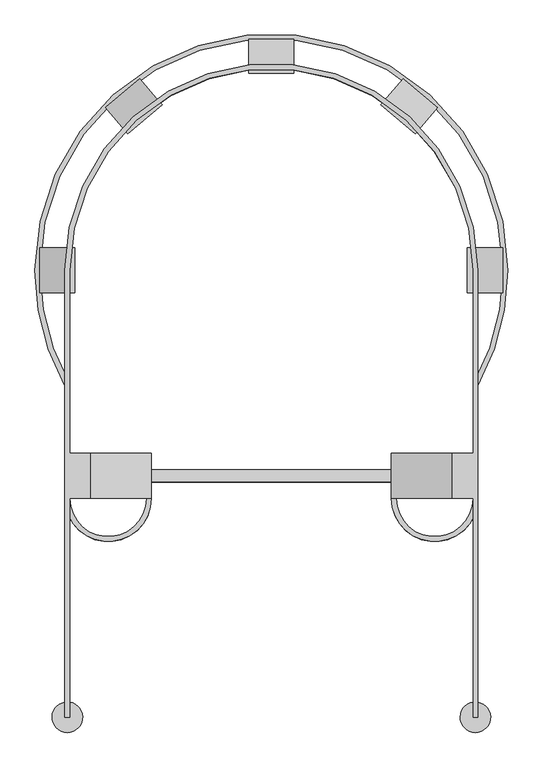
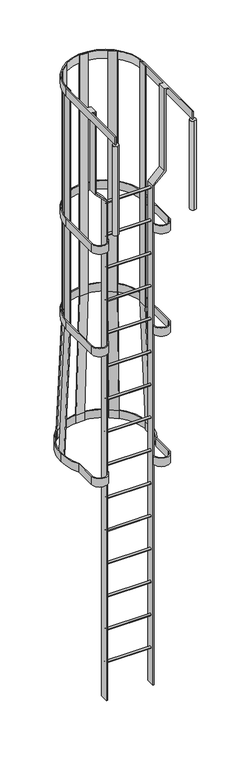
"""IFC4 building model written with IfcOpenShell, lengths in millimetres: proxy geometry, Лестница клетевой конструкции : Стандартная."""

from ifc_helpers import new_model, si_unit, point, frame, frame_2d, origin, place, context, project, spatial, polyline, circle_curve, trimmed, segment, composite_curve, outline, extrude, source, transform, mapped, element, save
from ifc_brep_helpers import plane_surface, cylinder_surface, revolved_surface, advanced_brep


def specialty_equipment_8408ae57(model_context):
    return source(origin(), model_context, "Body", "SolidModel", [
        extrude(outline(composite_curve([segment(trimmed(circle_curve(frame_2d((272.0, 365.2)), 72.0), [point((344.0, 365.2))], [point((200.0, 365.2))], False, "CARTESIAN"), True, "CONTINUOUS"), segment(polyline([(200.0, 365.2), (208.0, 365.2)]), True, "CONTINUOUS"), segment(trimmed(circle_curve(frame_2d((272.0, 365.2)), 64.0), [point((208.0, 365.2))], [point((336.0, 365.2))], True, "CARTESIAN"), True, "CONTINUOUS"), segment(polyline([(336.0, 365.2), (336.0, 745.2)]), True, "CONTINUOUS"), segment(trimmed(circle_curve(frame_2d((0.0, 745.2)), 336.0), [point((336.0, 745.2))], [point((-336.0, 745.2))], True, "CARTESIAN"), True, "CONTINUOUS"), segment(polyline([(-336.0, 745.2), (-336.0, 365.2)]), True, "CONTINUOUS"), segment(trimmed(circle_curve(frame_2d((-272.0, 365.2)), 64.0), [point((-336.0, 365.2))], [point((-208.0, 365.2))], True, "CARTESIAN"), True, "CONTINUOUS"), segment(polyline([(-208.0, 365.2), (-200.0, 365.2)]), True, "CONTINUOUS"), segment(trimmed(circle_curve(frame_2d((-272.0, 365.2)), 72.0), [point((-200.0, 365.2))], [point((-344.0, 365.2))], False, "CARTESIAN"), True, "CONTINUOUS"), segment(polyline([(-344.0, 365.2), (-344.0, 745.2)]), True, "CONTINUOUS"), segment(trimmed(circle_curve(frame_2d((0.0, 745.2)), 344.0), [point((-344.0, 745.2))], [point((344.0, 745.2))], False, "CARTESIAN"), True, "CONTINUOUS"), segment(polyline([(344.0, 745.2), (344.0, 365.2)]), True, "CONTINUOUS")], self_intersect=False)), frame((0.0, 0.0, -1335.0), z_axis=(0.0, 0.0, 1.0), x_axis=(1.0, 0.0, 0.0)), (0.0, 0.0, 1.0), 75.0),
        extrude(outline(composite_curve([segment(trimmed(circle_curve(frame_2d((402.7, -4270.0)), 10.0), [point((392.7, -4270.0))], [point((412.7, -4270.0))], False, "CARTESIAN"), True, "CONTINUOUS"), segment(trimmed(circle_curve(frame_2d((402.7, -4270.0)), 10.0), [point((412.7, -4270.0))], [point((392.7, -4270.0))], False, "CARTESIAN"), True, "CONTINUOUS")], self_intersect=False)), frame((-200.0, 0.0, 0.0), z_axis=(1.0, 0.0, 0.0), x_axis=(0.0, 1.0, 0.0)), (0.0, 0.0, 1.0), 400.0),
        extrude(outline(composite_curve([segment(trimmed(circle_curve(frame_2d((402.7, -3965.0)), 10.0), [point((392.7, -3965.0))], [point((412.7, -3965.0))], False, "CARTESIAN"), True, "CONTINUOUS"), segment(trimmed(circle_curve(frame_2d((402.7, -3965.0)), 10.0), [point((412.7, -3965.0))], [point((392.7, -3965.0))], False, "CARTESIAN"), True, "CONTINUOUS")], self_intersect=False)), frame((-200.0, 0.0, 0.0), z_axis=(1.0, 0.0, 0.0), x_axis=(0.0, 1.0, 0.0)), (0.0, 0.0, 1.0), 400.0),
        extrude(outline(composite_curve([segment(trimmed(circle_curve(frame_2d((402.7, -3660.0)), 10.0), [point((392.7, -3660.0))], [point((412.7, -3660.0))], False, "CARTESIAN"), True, "CONTINUOUS"), segment(trimmed(circle_curve(frame_2d((402.7, -3660.0)), 10.0), [point((412.7, -3660.0))], [point((392.7, -3660.0))], False, "CARTESIAN"), True, "CONTINUOUS")], self_intersect=False)), frame((-200.0, 0.0, 0.0), z_axis=(1.0, 0.0, 0.0), x_axis=(0.0, 1.0, 0.0)), (0.0, 0.0, 1.0), 400.0),
        extrude(outline(composite_curve([segment(trimmed(circle_curve(frame_2d((402.7, -3355.0)), 10.0), [point((392.7, -3355.0))], [point((412.7, -3355.0))], False, "CARTESIAN"), True, "CONTINUOUS"), segment(trimmed(circle_curve(frame_2d((402.7, -3355.0)), 10.0), [point((412.7, -3355.0))], [point((392.7, -3355.0))], False, "CARTESIAN"), True, "CONTINUOUS")], self_intersect=False)), frame((-200.0, 0.0, 0.0), z_axis=(1.0, 0.0, 0.0), x_axis=(0.0, 1.0, 0.0)), (0.0, 0.0, 1.0), 400.0),
        extrude(outline(composite_curve([segment(trimmed(circle_curve(frame_2d((402.7, -3050.0)), 10.0), [point((392.7, -3050.0))], [point((412.7, -3050.0))], False, "CARTESIAN"), True, "CONTINUOUS"), segment(trimmed(circle_curve(frame_2d((402.7, -3050.0)), 10.0), [point((412.7, -3050.0))], [point((392.7, -3050.0))], False, "CARTESIAN"), True, "CONTINUOUS")], self_intersect=False)), frame((-200.0, 0.0, 0.0), z_axis=(1.0, 0.0, 0.0), x_axis=(0.0, 1.0, 0.0)), (0.0, 0.0, 1.0), 400.0),
        extrude(outline(composite_curve([segment(trimmed(circle_curve(frame_2d((402.7, -2745.0)), 10.0), [point((392.7, -2745.0))], [point((412.7, -2745.0))], False, "CARTESIAN"), True, "CONTINUOUS"), segment(trimmed(circle_curve(frame_2d((402.7, -2745.0)), 10.0), [point((412.7, -2745.0))], [point((392.7, -2745.0))], False, "CARTESIAN"), True, "CONTINUOUS")], self_intersect=False)), frame((-200.0, 0.0, 0.0), z_axis=(1.0, 0.0, 0.0), x_axis=(0.0, 1.0, 0.0)), (0.0, 0.0, 1.0), 400.0),
        extrude(outline(composite_curve([segment(trimmed(circle_curve(frame_2d((402.7, -2440.0)), 10.0), [point((392.7, -2440.0))], [point((412.7, -2440.0))], False, "CARTESIAN"), True, "CONTINUOUS"), segment(trimmed(circle_curve(frame_2d((402.7, -2440.0)), 10.0), [point((412.7, -2440.0))], [point((392.7, -2440.0))], False, "CARTESIAN"), True, "CONTINUOUS")], self_intersect=False)), frame((-200.0, 0.0, 0.0), z_axis=(1.0, 0.0, 0.0), x_axis=(0.0, 1.0, 0.0)), (0.0, 0.0, 1.0), 400.0),
        extrude(outline(composite_curve([segment(trimmed(circle_curve(frame_2d((272.0, 365.2)), 72.0), [point((344.0, 365.2))], [point((200.0, 365.2))], False, "CARTESIAN"), True, "CONTINUOUS"), segment(polyline([(200.0, 365.2), (208.0, 365.2)]), True, "CONTINUOUS"), segment(trimmed(circle_curve(frame_2d((272.0, 365.2)), 64.0), [point((208.0, 365.2))], [point((336.0, 365.2))], True, "CARTESIAN"), True, "CONTINUOUS"), segment(polyline([(336.0, 365.2), (336.0, 745.2)]), True, "CONTINUOUS"), segment(trimmed(circle_curve(frame_2d((0.0, 745.2)), 336.0), [point((336.0, 745.2))], [point((-336.0, 745.2))], True, "CARTESIAN"), True, "CONTINUOUS"), segment(polyline([(-336.0, 745.2), (-336.0, 365.2)]), True, "CONTINUOUS"), segment(trimmed(circle_curve(frame_2d((-272.0, 365.2)), 64.0), [point((-336.0, 365.2))], [point((-208.0, 365.2))], True, "CARTESIAN"), True, "CONTINUOUS"), segment(polyline([(-208.0, 365.2), (-200.0, 365.2)]), True, "CONTINUOUS"), segment(trimmed(circle_curve(frame_2d((-272.0, 365.2)), 72.0), [point((-200.0, 365.2))], [point((-344.0, 365.2))], False, "CARTESIAN"), True, "CONTINUOUS"), segment(polyline([(-344.0, 365.2), (-344.0, 745.2)]), True, "CONTINUOUS"), segment(trimmed(circle_curve(frame_2d((0.0, 745.2)), 344.0), [point((-344.0, 745.2))], [point((344.0, 745.2))], False, "CARTESIAN"), True, "CONTINUOUS"), segment(polyline([(344.0, 745.2), (344.0, 365.2)]), True, "CONTINUOUS")], self_intersect=False)), frame((0.0, 0.0, -385.0), z_axis=(0.0, 0.0, 1.0), x_axis=(1.0, 0.0, 0.0)), (0.0, 0.0, 1.0), 75.0),
        extrude(outline(composite_curve([segment(trimmed(circle_curve(frame_2d((402.7, -2135.0)), 10.0), [point((392.7, -2135.0))], [point((412.7, -2135.0))], False, "CARTESIAN"), True, "CONTINUOUS"), segment(trimmed(circle_curve(frame_2d((402.7, -2135.0)), 10.0), [point((412.7, -2135.0))], [point((392.7, -2135.0))], False, "CARTESIAN"), True, "CONTINUOUS")], self_intersect=False)), frame((-200.0, 0.0, 0.0), z_axis=(1.0, 0.0, 0.0), x_axis=(0.0, 1.0, 0.0)), (0.0, 0.0, 1.0), 400.0),
        extrude(outline(composite_curve([segment(trimmed(circle_curve(frame_2d((402.7, -1830.0)), 10.0), [point((392.7, -1830.0))], [point((412.7, -1830.0))], False, "CARTESIAN"), True, "CONTINUOUS"), segment(trimmed(circle_curve(frame_2d((402.7, -1830.0)), 10.0), [point((412.7, -1830.0))], [point((392.7, -1830.0))], False, "CARTESIAN"), True, "CONTINUOUS")], self_intersect=False)), frame((-200.0, 0.0, 0.0), z_axis=(1.0, 0.0, 0.0), x_axis=(0.0, 1.0, 0.0)), (0.0, 0.0, 1.0), 400.0),
        extrude(outline(composite_curve([segment(trimmed(circle_curve(frame_2d((402.7, -1525.0)), 10.0), [point((392.7, -1525.0))], [point((412.7, -1525.0))], False, "CARTESIAN"), True, "CONTINUOUS"), segment(trimmed(circle_curve(frame_2d((402.7, -1525.0)), 10.0), [point((412.7, -1525.0))], [point((392.7, -1525.0))], False, "CARTESIAN"), True, "CONTINUOUS")], self_intersect=False)), frame((-200.0, 0.0, 0.0), z_axis=(1.0, 0.0, 0.0), x_axis=(0.0, 1.0, 0.0)), (0.0, 0.0, 1.0), 400.0),
        extrude(outline(composite_curve([segment(trimmed(circle_curve(frame_2d((402.7, -1220.0)), 10.0), [point((392.7, -1220.0))], [point((412.7, -1220.0))], False, "CARTESIAN"), True, "CONTINUOUS"), segment(trimmed(circle_curve(frame_2d((402.7, -1220.0)), 10.0), [point((412.7, -1220.0))], [point((392.7, -1220.0))], False, "CARTESIAN"), True, "CONTINUOUS")], self_intersect=False)), frame((-200.0, 0.0, 0.0), z_axis=(1.0, 0.0, 0.0), x_axis=(0.0, 1.0, 0.0)), (0.0, 0.0, 1.0), 400.0),
        extrude(outline(composite_curve([segment(trimmed(circle_curve(frame_2d((402.7, -915.0)), 10.0), [point((392.7, -915.0))], [point((412.7, -915.0))], False, "CARTESIAN"), True, "CONTINUOUS"), segment(trimmed(circle_curve(frame_2d((402.7, -915.0)), 10.0), [point((412.7, -915.0))], [point((392.7, -915.0))], False, "CARTESIAN"), True, "CONTINUOUS")], self_intersect=False)), frame((-200.0, 0.0, 0.0), z_axis=(1.0, 0.0, 0.0), x_axis=(0.0, 1.0, 0.0)), (0.0, 0.0, 1.0), 400.0),
        extrude(outline(composite_curve([segment(trimmed(circle_curve(frame_2d((402.7, -610.0)), 10.0), [point((392.7, -610.0))], [point((412.7, -610.0))], False, "CARTESIAN"), True, "CONTINUOUS"), segment(trimmed(circle_curve(frame_2d((402.7, -610.0)), 10.0), [point((412.7, -610.0))], [point((392.7, -610.0))], False, "CARTESIAN"), True, "CONTINUOUS")], self_intersect=False)), frame((-200.0, 0.0, 0.0), z_axis=(1.0, 0.0, 0.0), x_axis=(0.0, 1.0, 0.0)), (0.0, 0.0, 1.0), 400.0),
        extrude(outline(composite_curve([segment(trimmed(circle_curve(frame_2d((402.7, -305.0)), 10.0), [point((392.7, -305.0))], [point((412.7, -305.0))], False, "CARTESIAN"), True, "CONTINUOUS"), segment(trimmed(circle_curve(frame_2d((402.7, -305.0)), 10.0), [point((412.7, -305.0))], [point((392.7, -305.0))], False, "CARTESIAN"), True, "CONTINUOUS")], self_intersect=False)), frame((-200.0, 0.0, 0.0), z_axis=(1.0, 0.0, 0.0), x_axis=(0.0, 1.0, 0.0)), (0.0, 0.0, 1.0), 400.0),
        extrude(outline(composite_curve([segment(trimmed(circle_curve(frame_2d((402.7, 0.0)), 10.0), [point((392.7, 0.0))], [point((412.7, 0.0))], False, "CARTESIAN"), True, "CONTINUOUS"), segment(trimmed(circle_curve(frame_2d((402.7, 0.0)), 10.0), [point((412.7, 0.0))], [point((392.7, 0.0))], False, "CARTESIAN"), True, "CONTINUOUS")], self_intersect=False)), frame((-200.0, 0.0, 0.0), z_axis=(1.0, 0.0, 0.0), x_axis=(0.0, 1.0, 0.0)), (0.0, 0.0, 1.0), 400.0),
        advanced_brep(
        [(-336.03125, 0.0, 900.0), (-344.03125, 0.0, 900.0), (-344.03125, 0.0, 825.0), (-336.03125, 0.0, 825.0), (-336.03125, 365.2, 900.0), (-301.6, 365.2, 900.0), (-301.6, 440.2, 900.0), (-336.03125, 440.2, 900.0), (-336.03125, 745.2, 900.0), (336.03125, 745.2, 900.0), (336.03125, 440.2, 900.0), (301.6, 440.2, 900.0), (301.6, 365.2, 900.0), (336.03125, 365.2, 900.0), (336.03125, 0.0, 900.0), (344.03125, 0.0, 900.0), (344.03125, 745.2, 900.0), (-344.03125, 745.2, 900.0), (-344.03125, 745.2, 825.0), (-344.03125, 25.0780586, 825.0), (344.03125, 745.2, 825.0), (344.03125, 25.0780586, 825.0), (340.0, 25.4, 825.0), (336.03125, 25.0880255, 825.0), (336.03125, 745.2, 825.0), (-336.03125, 745.2, 825.0), (-336.03125, 25.0880255, 825.0), (-340.0, 25.4, 825.0), (-336.03125, 440.2, 890.0), (-336.03125, 365.2, 890.0), (336.03125, 0.0, 825.0), (344.03125, 0.0, 825.0), (336.03125, 365.2, 890.0), (336.03125, 440.2, 890.0), (301.6, 365.2, 137.4921356), (200.0, 365.2, 35.8921356), (200.0, 365.2, -4600.0), (210.0, 365.2, -4600.0), (210.0, 365.2, 31.75), (311.6, 365.2, 133.35), (311.6, 365.2, 890.0), (311.6, 440.2, 890.0), (311.6, 440.2, 133.35), (210.0, 440.2, 31.75), (210.0, 440.2, -4600.0), (200.0, 440.2, -4600.0), (200.0, 440.2, 35.8921356), (301.6, 440.2, 137.4921356), (-311.6, 365.2, 890.0), (-311.6, 365.2, 133.35), (-210.0, 365.2, 31.75), (-210.0, 365.2, -4600.0), (-200.0, 365.2, -4600.0), (-200.0, 365.2, 35.8921356), (-301.6, 365.2, 137.4921356), (-301.6, 440.2, 137.4921356), (-200.0, 440.2, 35.8921356), (-200.0, 440.2, -4600.0), (-210.0, 440.2, -4600.0), (-210.0, 440.2, 31.75), (-311.6, 440.2, 133.35), (-311.6, 440.2, 890.0), (-340.0, 25.4, 0.0), (-340.0, -25.4, 0.0), (-340.0, -25.4, 825.0), (340.0, 25.4, 0.0), (340.0, -25.4, 0.0), (340.0, -25.4, 825.0)],
        [
            (0, 1),
            (1, 2),
            (2, 3),
            (3, 0),
            (0, 4),
            (4, 5),
            (5, 6),
            (6, 7),
            (7, 8),
            (8, 9, circle_curve(frame((0.0, 745.2, 900.0), z_axis=(0.0, 0.0, -1.0), x_axis=(-1.0, 0.0, 0.0)), 336.03125)),
            (9, 10),
            (10, 11),
            (11, 12),
            (12, 13),
            (13, 14),
            (14, 15),
            (15, 16),
            (16, 17, circle_curve(frame((0.0, 745.2, 900.0), z_axis=(0.0, 0.0, 1.0), x_axis=(-1.0, 0.0, 0.0)), 344.03125)),
            (17, 1),
            (17, 18),
            (18, 19),
            (19, 2),
            (18, 20, circle_curve(frame((0.0, 745.2, 825.0), z_axis=(0.0, 0.0, -1.0), x_axis=(-1.0, 0.0, 0.0)), 344.03125)),
            (20, 21),
            (21, 22, circle_curve(frame((340.0, 0.0, 825.0), z_axis=(0.0, 0.0, 1.0), x_axis=(0.0, -1.0, 0.0)), 25.4)),
            (22, 23, circle_curve(frame((340.0, 0.0, 825.0), z_axis=(0.0, 0.0, 1.0), x_axis=(0.0, -1.0, 0.0)), 25.4)),
            (23, 24),
            (24, 25, circle_curve(frame((0.0, 745.2, 825.0), z_axis=(0.0, 0.0, 1.0), x_axis=(-1.0, 0.0, 0.0)), 336.03125)),
            (25, 26),
            (26, 27, circle_curve(frame((-340.0, 0.0, 825.0), z_axis=(0.0, 0.0, 1.0), x_axis=(0.0, -1.0, 0.0)), 25.4)),
            (27, 19, circle_curve(frame((-340.0, 0.0, 825.0), z_axis=(0.0, 0.0, 1.0), x_axis=(0.0, -1.0, 0.0)), 25.4)),
            (3, 26),
            (25, 8),
            (7, 28),
            (28, 29),
            (29, 4),
            (16, 20),
            (24, 9),
            (14, 30),
            (30, 31),
            (31, 15),
            (31, 21),
            (23, 30),
            (13, 32),
            (32, 33),
            (33, 10),
            (12, 34),
            (34, 35),
            (35, 36),
            (36, 37),
            (37, 38),
            (38, 39),
            (39, 40),
            (40, 32),
            (41, 42),
            (42, 43),
            (43, 44),
            (44, 45),
            (45, 46),
            (46, 47),
            (47, 11),
            (33, 41),
            (47, 34),
            (46, 35),
            (45, 36),
            (44, 37),
            (43, 38),
            (42, 39),
            (41, 40),
            (48, 49),
            (49, 50),
            (50, 51),
            (51, 52),
            (52, 53),
            (53, 54),
            (54, 5),
            (29, 48),
            (6, 55),
            (55, 56),
            (56, 57),
            (57, 58),
            (58, 59),
            (59, 60),
            (60, 61),
            (61, 28),
            (48, 61),
            (60, 49),
            (59, 50),
            (58, 51),
            (57, 52),
            (56, 53),
            (55, 54),
            (62, 63, circle_curve(frame((-340.0, 0.0, 0.0), z_axis=(0.0, 0.0, -1.0), x_axis=(0.0, -1.0, 0.0)), 25.4)),
            (63, 62, circle_curve(frame((-340.0, 0.0, 0.0), z_axis=(0.0, 0.0, -1.0), x_axis=(0.0, -1.0, 0.0)), 25.4)),
            (19, 64, circle_curve(frame((-340.0, 0.0, 825.0), z_axis=(0.0, 0.0, 1.0), x_axis=(0.0, -1.0, 0.0)), 25.4)),
            (64, 26, circle_curve(frame((-340.0, 0.0, 825.0), z_axis=(0.0, 0.0, 1.0), x_axis=(0.0, -1.0, 0.0)), 25.4)),
            (62, 27),
            (64, 63),
            (65, 66, circle_curve(frame((340.0, 0.0, 0.0), z_axis=(0.0, 0.0, -1.0), x_axis=(0.0, -1.0, 0.0)), 25.4)),
            (66, 65, circle_curve(frame((340.0, 0.0, 0.0), z_axis=(0.0, 0.0, -1.0), x_axis=(0.0, -1.0, 0.0)), 25.4)),
            (67, 21, circle_curve(frame((340.0, 0.0, 825.0), z_axis=(0.0, 0.0, 1.0), x_axis=(0.0, -1.0, 0.0)), 25.4)),
            (23, 67, circle_curve(frame((340.0, 0.0, 825.0), z_axis=(0.0, 0.0, 1.0), x_axis=(0.0, -1.0, 0.0)), 25.4)),
            (65, 22),
            (67, 66),
        ],
        [
            plane_surface(frame((-340.0, 0.0, 0.0), z_axis=(0.0, -1.0, 0.0), x_axis=(0.0, 0.0, 1.0))),
            plane_surface(frame((-336.03125, 0.0, 900.0), z_axis=(0.0, 0.0, 1.0), x_axis=(0.0, 1.0, 0.0))),
            plane_surface(frame((-344.03125, 0.0, 900.0), z_axis=(-1.0, 0.0, 0.0), x_axis=(0.0, 1.0, 0.0))),
            plane_surface(frame((-344.03125, 0.0, 825.0), z_axis=(0.0, 0.0, -1.0), x_axis=(0.0, 1.0, 0.0))),
            plane_surface(frame((-336.03125, 0.0, 825.0), z_axis=(1.0, 0.0, 0.0), x_axis=(0.0, 1.0, 0.0))),
            cylinder_surface(frame((0.0, 745.2, 0.0), z_axis=(0.0, 0.0, -1.0), x_axis=(-1.0, 0.0, 0.0)), 344.03125),
            revolved_surface(polyline([(-336.03125, 745.2, 825.0), (-336.03125, 745.2, 900.0)]), (0.0, 745.2, 0.0), (0.0, 0.0, -1.0)),
            plane_surface(frame((340.0, 0.0, 0.0), z_axis=(0.0, -1.0, 0.0), x_axis=(0.0, 0.0, 1.0))),
            plane_surface(frame((344.03125, 745.2, 900.0), z_axis=(1.0, 0.0, 0.0), x_axis=(0.0, -1.0, 0.0))),
            plane_surface(frame((336.03125, 745.2, 825.0), z_axis=(-1.0, 0.0, 0.0), x_axis=(0.0, -1.0, 0.0))),
            plane_surface(frame((270.9170109, 365.2, 0.0), z_axis=(0.0, -1.0, 0.0), x_axis=(0.0, 0.0, 1.0))),
            plane_surface(frame((270.9170109, 440.2, 0.0), z_axis=(0.0, 1.0, 0.0), x_axis=(0.0, 0.0, 1.0))),
            plane_surface(frame((301.6, 365.2, 900.0), z_axis=(-1.0, 0.0, 0.0), x_axis=(0.0, 1.0, 0.0))),
            plane_surface(frame((301.6, 365.2, 137.4921356), z_axis=(-0.7071067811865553, 0.0, 0.7071067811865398), x_axis=(0.0, 1.0, 0.0))),
            plane_surface(frame((200.0, 365.2, 35.8921356), z_axis=(-1.0, 0.0, 0.0), x_axis=(0.0, 1.0, 0.0))),
            plane_surface(frame((200.0, 365.2, -4600.0), z_axis=(0.0, 0.0, -1.0), x_axis=(0.0, 1.0, 0.0))),
            plane_surface(frame((210.0, 365.2, -4600.0), z_axis=(1.0, 0.0, 0.0), x_axis=(0.0, 1.0, 0.0))),
            plane_surface(frame((210.0, 365.2, 31.75), z_axis=(0.707106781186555, 0.0, -0.7071067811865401), x_axis=(0.0, 1.0, 0.0))),
            plane_surface(frame((311.6, 365.2, 133.35), z_axis=(1.0, 0.0, 0.0), x_axis=(0.0, 1.0, 0.0))),
            plane_surface(frame((311.6, 365.2, 890.0), z_axis=(0.0, 0.0, -1.0), x_axis=(0.0, 1.0, 0.0))),
            plane_surface(frame((-514.625, 365.2, 0.0), z_axis=(0.0, -1.0, 0.0), x_axis=(0.0, 0.0, 1.0))),
            plane_surface(frame((-514.625, 440.2, 0.0), z_axis=(0.0, 1.0, 0.0), x_axis=(0.0, 0.0, 1.0))),
            plane_surface(frame((-311.6, 365.2, 890.0), z_axis=(-1.0, 0.0, 0.0), x_axis=(0.0, 1.0, 0.0))),
            plane_surface(frame((-311.6, 365.2, 133.35), z_axis=(-0.7071067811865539, 0.0, -0.7071067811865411), x_axis=(0.0, 1.0, 0.0))),
            plane_surface(frame((-210.0, 365.2, 31.75), z_axis=(-1.0, 0.0, 0.0), x_axis=(0.0, 1.0, 0.0))),
            plane_surface(frame((-210.0, 365.2, -4600.0), z_axis=(0.0, 0.0, -1.0), x_axis=(0.0, 1.0, 0.0))),
            plane_surface(frame((-200.0, 365.2, -4600.0), z_axis=(1.0, 0.0, 0.0), x_axis=(0.0, 1.0, 0.0))),
            plane_surface(frame((-200.0, 365.2, 35.8921356), z_axis=(0.7071067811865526, 0.0, 0.7071067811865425), x_axis=(0.0, 1.0, 0.0))),
            plane_surface(frame((-301.6, 365.2, 137.4921356), z_axis=(1.0, 0.0, 0.0), x_axis=(0.0, 1.0, 0.0))),
            plane_surface(frame((-340.0, 365.2, 890.0), z_axis=(0.0, 0.0, -1.0), x_axis=(0.0, 1.0, 0.0))),
            plane_surface(frame((0.0, -25.4, 0.0), z_axis=(0.0, 0.0, -1.0), x_axis=(1.0, 0.0, 0.0))),
            plane_surface(frame((0.0, -25.4, 825.0), z_axis=(0.0, 0.0, 1.0), x_axis=(1.0, 0.0, 0.0))),
            cylinder_surface(frame((-340.0, 0.0, 0.0), z_axis=(0.0, 0.0, -1.0), x_axis=(0.0, -1.0, 0.0)), 25.4),
            cylinder_surface(frame((340.0, 0.0, 0.0), z_axis=(0.0, 0.0, -1.0), x_axis=(0.0, -1.0, 0.0)), 25.4),
        ],
        [
            (0, [[1, 2, 3, 4]]),
            (1, [[-1, 5, 6, 7, 8, 9, 10, 11, 12, 13, 14, 15, 16, 17, 18, 19]]),
            (2, [[-2, -19, 20, 21, 22]]),
            (3, [[23, 24, 25, 26, 27, 28, 29, 30, 31, -21]]),
            (4, [[-4, 32, -29, 33, -9, 34, 35, 36, -5]]),
            (5, [[-18, 37, -23, -20]]),
            (6, [[-10, -33, -28, 38]]),
            (7, [[-16, 39, 40, 41]]),
            (8, [[-17, -41, 42, -24, -37]]),
            (9, [[-38, -27, 43, -39, -15, 44, 45, 46, -11]]),
            (10, [[47, 48, 49, 50, 51, 52, 53, 54, -44, -14]]),
            (11, [[55, 56, 57, 58, 59, 60, 61, -12, -46, 62]]),
            (12, [[-47, -13, -61, 63]]),
            (13, [[-48, -63, -60, 64]]),
            (14, [[-49, -64, -59, 65]]),
            (15, [[-50, -65, -58, 66]]),
            (16, [[-51, -66, -57, 67]]),
            (17, [[-52, -67, -56, 68]]),
            (18, [[-53, -68, -55, 69]]),
            (19, [[-69, -62, -45, -54]]),
            (20, [[70, 71, 72, 73, 74, 75, 76, -6, -36, 77]]),
            (21, [[78, 79, 80, 81, 82, 83, 84, 85, -34, -8]]),
            (22, [[-70, 86, -84, 87]]),
            (23, [[-71, -87, -83, 88]]),
            (24, [[-72, -88, -82, 89]]),
            (25, [[-73, -89, -81, 90]]),
            (26, [[-74, -90, -80, 91]]),
            (27, [[-75, -91, -79, 92]]),
            (28, [[-76, -92, -78, -7]]),
            (29, [[-86, -77, -35, -85]]),
            (30, [[93, 94]]),
            (31, [[95, 96, -32, -3, -22]]),
            (32, [[-93, 97, -30, -96, 98]]),
            (32, [[-94, -98, -95, -31, -97]]),
            (30, [[99, 100]]),
            (31, [[101, -42, -40, -43, 102]]),
            (33, [[-99, 103, -25, -101, 104]]),
            (33, [[-100, -104, -102, -26, -103]]),
        ],
    ),
        extrude(outline(polyline([(0.0, -8.0), (0.0, 0.0), (2235.176126, 0.0), (3370.176126, -50.0), (3445.0, -50.0), (3445.0, -58.0), (3370.0, -58.0), (2235.0, -8.0), (0.0, -8.0)])), frame((239.5610026, 972.358042, 900.0), z_axis=(-0.7660444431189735, 0.6427876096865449, 0.0), x_axis=(0.0, 0.0, -1.0)), (0.0, 0.0, 1.0), 75.0),
        extrude(outline(polyline([(0.0, -8.0000001), (0.0, 0.0), (2235.0, 0.0), (3370.0, 49.9999999), (3445.0, 49.9999999), (3445.0, 41.9999999), (3370.176126, 41.9999999), (2235.176126, -8.0000001), (0.0, -8.0000001)])), frame((-244.7230809, 978.4656505, 900.0), z_axis=(0.7659899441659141, 0.6428525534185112, 0.0), x_axis=(0.0, 0.0, -1.0)), (0.0, 0.0, 1.0), 75.0),
        extrude(outline(polyline([(1073.2, 900.0), (1081.2, 900.0), (1081.2, -1335.0), (1131.2, -2470.0), (1131.2, -2545.0), (1123.2, -2545.0), (1123.2, -2470.176126), (1073.2, -1335.176126), (1073.2, 900.0)])), frame((-37.5, 0.0, 0.0), z_axis=(1.0, 0.0, 0.0), x_axis=(0.0, 1.0, 0.0)), (0.0, 0.0, 1.0), 75.0),
        extrude(outline(polyline([(900.0, -328.0), (900.0, -336.0), (-1335.0, -336.0), (-2470.0, -386.0), (-2545.0, -386.0), (-2545.0, -378.0), (-2470.176126, -378.0), (-1335.176126, -328.0), (900.0, -328.0)])), frame((0.0, 707.7, 0.0), z_axis=(0.0, 1.0, 0.0), x_axis=(0.0, 0.0, 1.0)), (0.0, 0.0, 1.0), 75.0),
        extrude(outline(polyline([(900.0, 336.03125), (900.0, 326.03125), (-1335.2194696, 326.03125), (-2470.2194696, 376.03125), (-2545.0, 376.03125), (-2545.0, 386.03125), (-2469.999312, 386.03125), (-1334.999312, 336.03125), (900.0, 336.03125)])), frame((0.0, 707.7, 0.0), z_axis=(0.0, 1.0, 0.0), x_axis=(0.0, 0.0, 1.0)), (0.0, 0.0, 1.0), 75.0),
        extrude(outline(composite_curve([segment(trimmed(circle_curve(frame_2d((0.0, 745.2)), 394.03125), [point((394.03125, 745.2))], [point((344.03125, 553.098139))], False, "CARTESIAN"), True, "CONTINUOUS"), segment(polyline([(344.03125, 553.098139), (344.03125, 365.2)]), True, "CONTINUOUS"), segment(trimmed(circle_curve(frame_2d((272.0, 365.2)), 72.03125), [point((344.03125, 365.2))], [point((199.96875, 365.2))], False, "CARTESIAN"), True, "CONTINUOUS"), segment(polyline([(199.96875, 365.2), (207.96875, 365.2)]), True, "CONTINUOUS"), segment(trimmed(circle_curve(frame_2d((272.0, 365.2)), 64.03125), [point((207.96875, 365.2))], [point((336.03125, 365.2))], True, "CARTESIAN"), True, "CONTINUOUS"), segment(polyline([(336.03125, 365.2), (336.03125, 555.1917765)]), True, "CONTINUOUS"), segment(trimmed(circle_curve(frame_2d((0.0, 745.2)), 386.03125), [point((336.03125, 555.1917765))], [point((386.03125, 745.2))], True, "CARTESIAN"), True, "CONTINUOUS"), segment(trimmed(circle_curve(frame_2d((0.0, 745.2)), 386.03125), [point((386.03125, 745.2))], [point((-386.03125, 745.2))], True, "CARTESIAN"), True, "CONTINUOUS"), segment(trimmed(circle_curve(frame_2d((0.0, 745.2)), 386.03125), [point((-386.03125, 745.2))], [point((-336.03125, 555.1917765))], True, "CARTESIAN"), True, "CONTINUOUS"), segment(polyline([(-336.03125, 555.1917765), (-336.03125, 365.2)]), True, "CONTINUOUS"), segment(trimmed(circle_curve(frame_2d((-272.0, 365.2)), 64.03125), [point((-336.03125, 365.2))], [point((-207.96875, 365.2))], True, "CARTESIAN"), True, "CONTINUOUS"), segment(polyline([(-207.96875, 365.2), (-199.96875, 365.2)]), True, "CONTINUOUS"), segment(trimmed(circle_curve(frame_2d((-272.0, 365.2)), 72.03125), [point((-199.96875, 365.2))], [point((-344.03125, 365.2))], False, "CARTESIAN"), True, "CONTINUOUS"), segment(polyline([(-344.03125, 365.2), (-344.03125, 553.098139)]), True, "CONTINUOUS"), segment(trimmed(circle_curve(frame_2d((0.0, 745.2)), 394.03125), [point((-344.03125, 553.098139))], [point((-394.03125, 745.2))], False, "CARTESIAN"), True, "CONTINUOUS"), segment(trimmed(circle_curve(frame_2d((0.0, 745.2)), 394.03125), [point((-394.03125, 745.2))], [point((394.03125, 745.2))], False, "CARTESIAN"), True, "CONTINUOUS")], self_intersect=False)), frame((0.0, 0.0, -2545.0), z_axis=(0.0, 0.0, 1.0), x_axis=(1.0, 0.0, 0.0)), (0.0, 0.0, 1.0), 75.0),
    ])


if __name__ == "__main__":
    model = new_model("IFC4")
    model_context = context("Model", 3, world=origin())
    ifc_project = project(units=[si_unit("LENGTHUNIT", "METRE", prefix="MILLI")], contexts=[model_context])
    site = spatial("IfcSite", under=ifc_project)
    building = spatial("IfcBuilding", under=site)
    placement = place(None, origin())
    specialty_equipment_shape = specialty_equipment_8408ae57(model_context)
    element("IfcBuildingElementProxy", 1, Name="Лестница клетевой конструкции : Стандартная", ObjectType="Лестница клетевой конструкции : Стандартная", at=placement, inside=building, context=model_context, shape_type="MappedRepresentation", body=[
        mapped(specialty_equipment_shape, transform((0.0, 0.0, 0.0), x_axis=(1.0, 0.0, 0.0), y_axis=(0.0, 1.0, 0.0), z_axis=(0.0, 0.0, 1.0))),
    ])
    save(model, "model.ifc")
